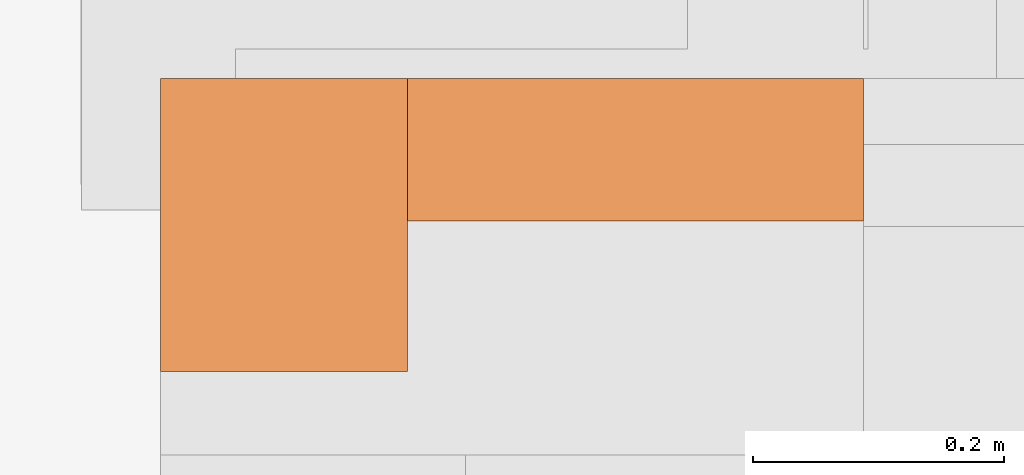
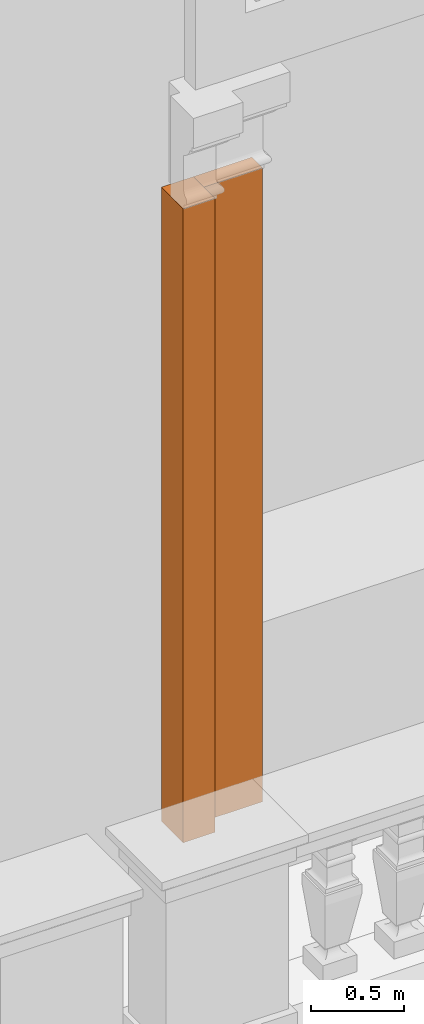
# One storey, part 3 of 14: 2 proxies.
"""IFC2X3 building model written with IfcOpenShell, lengths in metres."""

from ifc_helpers import new_model, entity, si_unit, converted_unit, derived_unit, direction, frame, frame_2d, origin, place, context, subcontext, project, spatial, rectangle, extrude, material, element, save


model = new_model("IFC2X3")

# Units and contexts
model_context = context("Model", 3, precision=1e-05, world=origin(), true_north=direction((6.12303176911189e-17, 1.0)))
body_context = subcontext(model_context, "Body", "Model", "MODEL_VIEW")
ifc_project = project(units=[si_unit("LENGTHUNIT", "METRE"), si_unit("AREAUNIT", "SQUARE_METRE"), si_unit("VOLUMEUNIT", "CUBIC_METRE"), converted_unit("PLANEANGLEUNIT", "DEGREE", entity("IfcRatioMeasure", 0.0174532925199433), si_unit("PLANEANGLEUNIT", "RADIAN"), dimensions=[0, 0, 0, 0, 0, 0, 0]), si_unit("MASSUNIT", "GRAM", prefix="KILO"), derived_unit("MASSDENSITYUNIT", [(si_unit("MASSUNIT", "GRAM", prefix="KILO"), 1), (si_unit("LENGTHUNIT", "METRE"), -3)]), si_unit("TIMEUNIT", "SECOND"), si_unit("FREQUENCYUNIT", "HERTZ"), si_unit("THERMODYNAMICTEMPERATUREUNIT", "DEGREE_CELSIUS"), derived_unit("THERMALTRANSMITTANCEUNIT", [(si_unit("MASSUNIT", "GRAM", prefix="KILO"), 1), (si_unit("THERMODYNAMICTEMPERATUREUNIT", "KELVIN"), -1), (si_unit("TIMEUNIT", "SECOND"), -3)]), derived_unit("VOLUMETRICFLOWRATEUNIT", [(si_unit("LENGTHUNIT", "METRE"), 3), (si_unit("TIMEUNIT", "SECOND"), -1)]), si_unit("ELECTRICCURRENTUNIT", "AMPERE"), si_unit("ELECTRICVOLTAGEUNIT", "VOLT"), si_unit("POWERUNIT", "WATT"), si_unit("FORCEUNIT", "NEWTON", prefix="KILO"), si_unit("ILLUMINANCEUNIT", "LUX"), si_unit("LUMINOUSFLUXUNIT", "LUMEN"), si_unit("LUMINOUSINTENSITYUNIT", "CANDELA"), derived_unit("USERDEFINED", [(si_unit("MASSUNIT", "GRAM", prefix="KILO"), -1), (si_unit("LENGTHUNIT", "METRE"), -2), (si_unit("TIMEUNIT", "SECOND"), 3), (si_unit("LUMINOUSFLUXUNIT", "LUMEN"), 1)]), derived_unit("LINEARVELOCITYUNIT", [(si_unit("LENGTHUNIT", "METRE"), 1), (si_unit("TIMEUNIT", "SECOND"), -1)]), si_unit("PRESSUREUNIT", "PASCAL"), derived_unit("USERDEFINED", [(si_unit("LENGTHUNIT", "METRE"), -2), (si_unit("MASSUNIT", "GRAM", prefix="KILO"), 1), (si_unit("TIMEUNIT", "SECOND"), -2)])], contexts=[model_context])

# Site, building, storey
site_placement = place(None, origin())
site = spatial("IfcSite", under=ifc_project, at=site_placement, Name="Default", CompositionType="ELEMENT")
building_placement = place(site_placement, origin())
building = spatial("IfcBuilding", under=site, at=building_placement, CompositionType="ELEMENT")
storey_placement = place(building_placement, frame((0.0, 0.0, 13.366833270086)))
storey = spatial("IfcBuildingStorey", under=building, at=storey_placement, Name="Livello 2", CompositionType="ELEMENT", Elevation=13.366833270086)

# Proxies
ifc_material = material(Name="Travertino")
proxy_1_placement = place(storey_placement, frame((-9.50278761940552, 0.792024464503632, 0.57270076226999)))
element("IfcBuildingElementProxy", 1, at=proxy_1_placement, inside=storey, material=ifc_material, Name="Stratigrafia", context=body_context, shape_type="SweptSolid", body=[
    extrude(rectangle(XDim=4.14295671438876, YDim=0.233508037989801, at=frame_2d((-6.93889390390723e-17, 0.0), x_axis=(0.0, 1.0))), frame((0.0, 0.116754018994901, 2.07147835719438), z_axis=(1.0, 0.0, 0.0), x_axis=(0.0, 1.0, 0.0)), (0.0, 0.0, 1.0), 0.19686657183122),
])
proxy_2_placement = place(storey_placement, frame((-9.3059210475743, 0.912024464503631, 0.57270076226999)))
element("IfcBuildingElementProxy", 2, at=proxy_2_placement, inside=storey, material=ifc_material, Name="Stratigrafia", context=body_context, shape_type="SweptSolid", body=[
    extrude(rectangle(XDim=4.14295671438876, YDim=0.113508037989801, at=frame_2d((6.93889390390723e-17, 0.0), x_axis=(0.0, 1.0))), frame((0.0, 0.0567540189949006, 2.07147835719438), z_axis=(1.0, 0.0, 0.0), x_axis=(0.0, 1.0, 0.0)), (0.0, 0.0, 1.0), 0.363133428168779),
])

save(model, "model.ifc")
